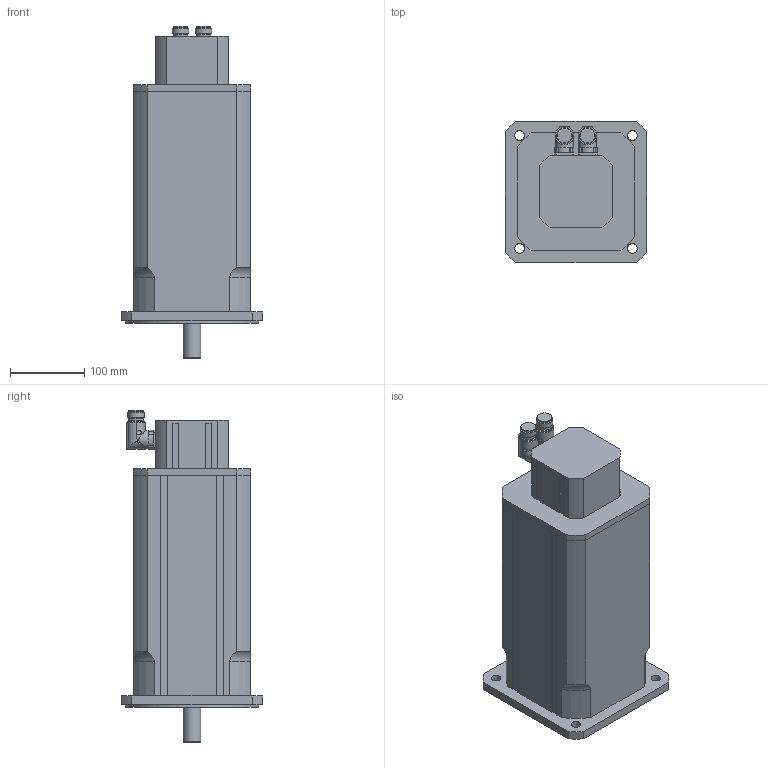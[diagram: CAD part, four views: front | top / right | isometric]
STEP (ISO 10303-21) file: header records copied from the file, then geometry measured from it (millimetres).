
FILE_DESCRIPTION(/* description */ ('Alibre Inc.'),/* implementation_level */ '2;1');
FILE_NAME(/* name */ 'export0',/* time_stamp */ '2011-12-09T10:06:10+01:00',/* author */ (''),/* organization */ (''),/* preprocessor_version */ 'ST-DEVELOPER v12',/* originating_system */ 'Alibre',/* authorisation */ '');
FILE_SCHEMA (('CONFIG_CONTROL_DESIGN'));
Length unit declared in the file: millimetre
Products named in the file (5): ID_1
Bounding box: 190 x 190 x 447 mm (x, y, z)
Volume: 8499934.9 mm3; surface area: 383125.5 mm2
Topology: 5 solids, 5 shells, 215 faces, 549 edges, 357 vertices
Faces by surface type: plane 111, cylinder 88, cone 10, torus 4, bspline 2
Full cylindrical faces by diameter (mm): 2.7 x8, 6.647 x1, 13 x4, 20 x8, 22 x4, 24 x3, 25 x1, 180 x1
Entity records: 5607 total; most frequent: CARTESIAN_POINT 1351, ORIENTED_EDGE 746, DIRECTION 733, EDGE_CURVE 373, AXIS2_PLACEMENT_3D 304, VERTEX_POINT 261, VECTOR 211, LINE 211
